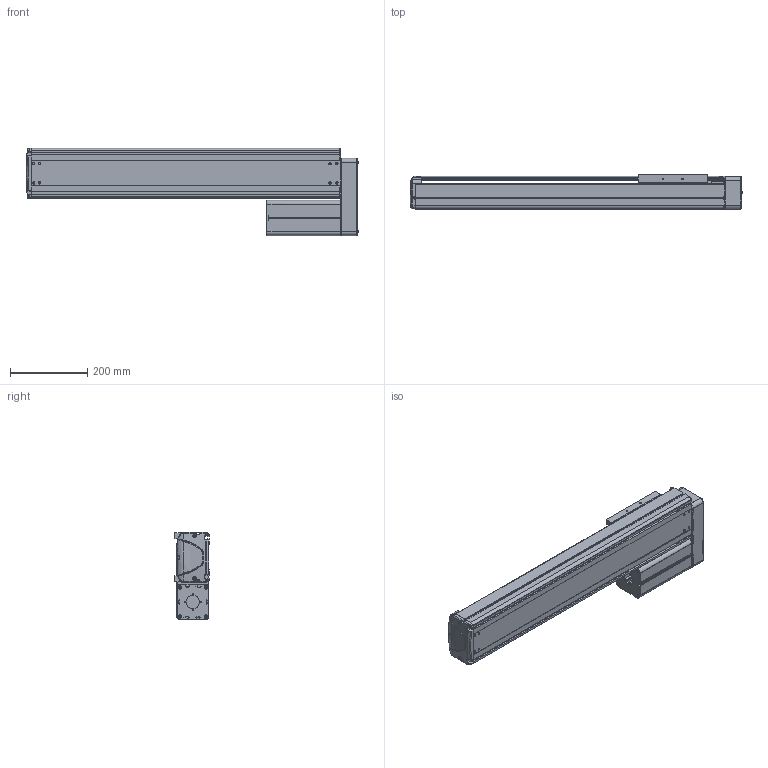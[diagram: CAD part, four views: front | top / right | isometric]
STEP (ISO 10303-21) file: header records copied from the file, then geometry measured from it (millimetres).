
FILE_DESCRIPTION((''),'2;1');
FILE_NAME('BE30E-UL-L_B-55_IGS_PRT','2017-06-17T',(' '),(''),'PRO/ENGINEER BY PARAMETRIC TECHNOLOGY CORPORATION, 2015030','PRO/ENGINEER BY PARAMETRIC TECHNOLOGY CORPORATION, 2015030','');
FILE_SCHEMA(('CONFIG_CONTROL_DESIGN'));
Products named in the file (1): BE30E-UL-L_B-55_IGS_PRT
Bounding box: 861.9 x 89.8 x 227 mm (x, y, z)
Volume: 3047346.9 mm3; surface area: 1352002.9 mm2
Topology: 2 solids, 120 shells, 2019 faces, 5441 edges, 3540 vertices
Faces by surface type: plane 992, cylinder 835, cone 101, torus 39, bspline 28, sphere 24
Entity records: 65408 total; most frequent: CARTESIAN_POINT 13837, DIRECTION 10905, ORIENTED_EDGE 10361, EDGE_CURVE 5403, AXIS2_PLACEMENT_3D 3837, VERTEX_POINT 3540, VECTOR 3231, LINE 3231
